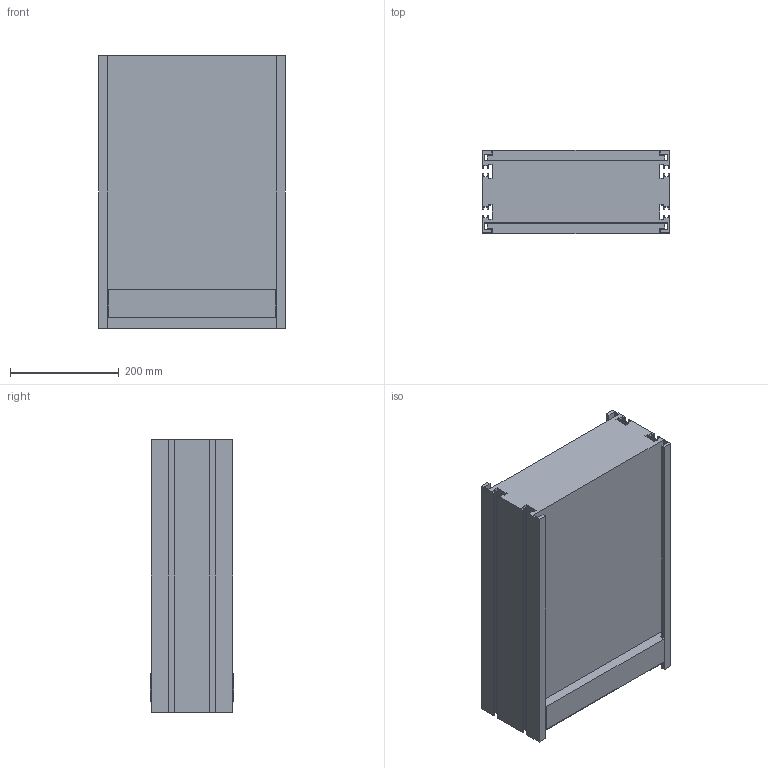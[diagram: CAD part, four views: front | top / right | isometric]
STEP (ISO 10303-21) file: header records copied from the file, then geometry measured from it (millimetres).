
FILE_DESCRIPTION (( 'STEP AP203' ), '1' );
FILE_NAME ('F2-1200-D500.STEP', '2009-01-23T09:38:48', ( 'faber' ), ( '' ), 'SwSTEP 2.0', 'SolidWorks 2008', '' );
FILE_SCHEMA (( 'CONFIG_CONTROL_DESIGN' ));
Length unit declared in the file: millimetre
Products named in the file (3): Tapis_1200; Poutre_1200; F2-1200-D500
Assembly tree (3 placements, depth 2):
  F2-1200-D500
    Tapis_1200  x2
    Poutre_1200
Bounding box: 342 x 152.88 x 500 mm (x, y, z)
Volume: 19857349.9 mm3; surface area: 922068.6 mm2
Topology: 3 solids, 3 shells, 106 faces, 300 edges, 200 vertices
Faces by surface type: plane 106
Entity records: 3417 total; most frequent: CARTESIAN_POINT 562, ORIENTED_EDGE 552, DIRECTION 480, LINE 276, VECTOR 276, EDGE_CURVE 276, VERTEX_POINT 184, AXIS2_PLACEMENT_3D 102
